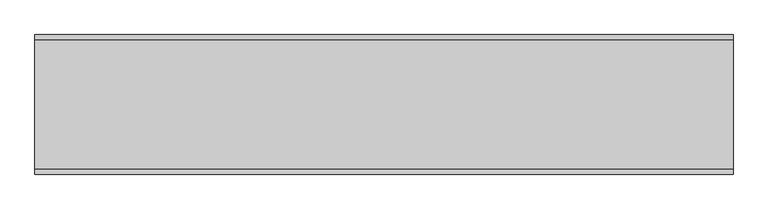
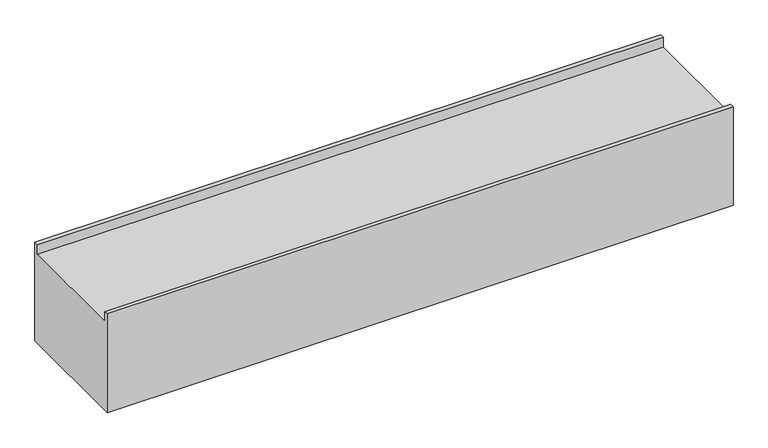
"""IFC4 building model written with IfcOpenShell, lengths in millimetres: furniture geometry, Transportanlage für Umgebung : Transportanlage für Umgebung."""

from ifc_helpers import new_model, si_unit, frame, origin, place, context, project, spatial, polyline, outline, extrude, source, transform, mapped, element, save


def furniture_fb11fbc3(model_context):
    return source(origin(), model_context, "Body", "SweptSolid", [
        extrude(outline(polyline([(-300.0, 0.0), (-300.0, 500.0), (-280.0, 500.0), (-280.0, 450.0), (280.0, 450.0), (280.0, 500.0), (300.0, 500.0), (300.0, 0.0), (-300.0, 0.0)])), frame((-1500.0, 0.0, 0.0), z_axis=(1.0, 0.0, 0.0), x_axis=(0.0, 1.0, 0.0)), (0.0, 0.0, 1.0), 3000.0),
    ])


if __name__ == "__main__":
    model = new_model("IFC4")
    model_context = context("Model", 3, world=origin())
    ifc_project = project(units=[si_unit("LENGTHUNIT", "METRE", prefix="MILLI")], contexts=[model_context])
    site = spatial("IfcSite", under=ifc_project)
    building = spatial("IfcBuilding", under=site)
    placement = place(None, origin())
    furniture_shape = furniture_fb11fbc3(model_context)
    element("IfcFurniture", 1, ObjectType="Transportanlage für Umgebung : Transportanlage für Umgebung", at=placement, inside=building, context=model_context, shape_type="MappedRepresentation", body=[
        mapped(furniture_shape, transform((0.0, 0.0, 0.0), x_axis=(1.0, 0.0, 0.0), y_axis=(0.0, 1.0, 0.0), z_axis=(0.0, 0.0, 1.0))),
    ])
    save(model, "model.ifc")
